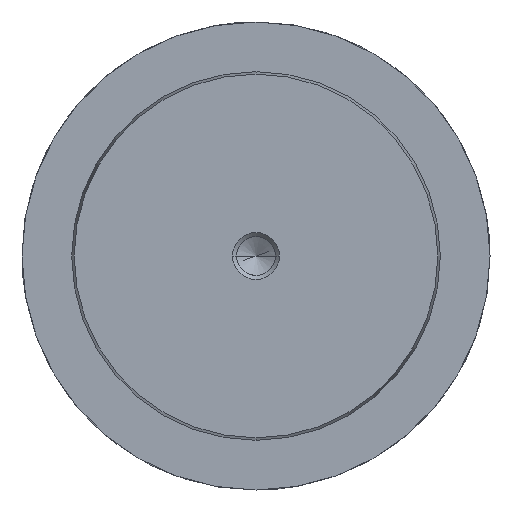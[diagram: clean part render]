
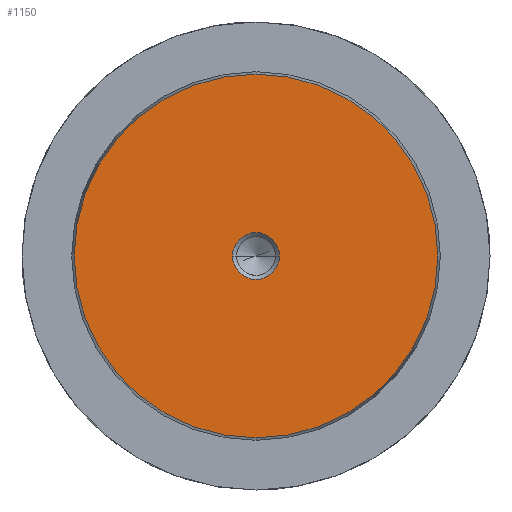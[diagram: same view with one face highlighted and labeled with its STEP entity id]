
A CAD part, left-side view. The second image highlights one B-rep face of the part: STEP entity #1150.
In plain terms, the highlighted planar face has unit normal (-1, 0, 0).
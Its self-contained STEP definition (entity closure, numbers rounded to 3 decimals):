
#1064=CARTESIAN_POINT('Vertex',(0.,0.,-31.078)) ;
#1067=CARTESIAN_POINT('Axis2P3D Location',(0.,0.,0.)) ;
#1071=CARTESIAN_POINT('Vertex',(0.,31.078,0.)) ;
#1074=CARTESIAN_POINT('Axis2P3D Location',(0.,0.,0.)) ;
#1078=CARTESIAN_POINT('Vertex',(0.,0.,31.078)) ;
#1100=CARTESIAN_POINT('Axis2P3D Location',(0.,0.,0.)) ;
#1104=CARTESIAN_POINT('Vertex',(0.,-31.078,0.)) ;
#1107=CARTESIAN_POINT('Axis2P3D Location',(0.,0.,0.)) ;
#1121=CARTESIAN_POINT('Axis2P3D Location',(0.,0.,0.)) ;
#1132=CARTESIAN_POINT('Axis2P3D Location',(0.,0.,0.)) ;
#1136=CARTESIAN_POINT('Vertex',(0.,4.,0.)) ;
#1138=CARTESIAN_POINT('Vertex',(0.,-4.,0.)) ;
#1141=CARTESIAN_POINT('Axis2P3D Location',(0.,0.,0.)) ;
#1068=DIRECTION('Axis2P3D Direction',(1.,0.,-0.)) ;
#1075=DIRECTION('Axis2P3D Direction',(1.,0.,-0.)) ;
#1101=DIRECTION('Axis2P3D Direction',(1.,0.,-0.)) ;
#1108=DIRECTION('Axis2P3D Direction',(1.,0.,-0.)) ;
#1122=DIRECTION('Axis2P3D Direction',(1.,0.,-0.)) ;
#1123=DIRECTION('Axis2P3D XDirection',(-0.,0.,-1.)) ;
#1133=DIRECTION('Axis2P3D Direction',(1.,0.,-0.)) ;
#1142=DIRECTION('Axis2P3D Direction',(1.,0.,-0.)) ;
#1069=AXIS2_PLACEMENT_3D('Circle Axis2P3D',#1067,#1068,$) ;
#1076=AXIS2_PLACEMENT_3D('Circle Axis2P3D',#1074,#1075,$) ;
#1102=AXIS2_PLACEMENT_3D('Circle Axis2P3D',#1100,#1101,$) ;
#1109=AXIS2_PLACEMENT_3D('Circle Axis2P3D',#1107,#1108,$) ;
#1124=AXIS2_PLACEMENT_3D('Plane Axis2P3D',#1121,#1122,#1123) ;
#1134=AXIS2_PLACEMENT_3D('Circle Axis2P3D',#1132,#1133,$) ;
#1143=AXIS2_PLACEMENT_3D('Circle Axis2P3D',#1141,#1142,$) ;
#1127=ORIENTED_EDGE('',*,*,#1073,.F.) ;
#1128=ORIENTED_EDGE('',*,*,#1111,.F.) ;
#1129=ORIENTED_EDGE('',*,*,#1106,.F.) ;
#1130=ORIENTED_EDGE('',*,*,#1080,.F.) ;
#1147=ORIENTED_EDGE('',*,*,#1140,.T.) ;
#1148=ORIENTED_EDGE('',*,*,#1145,.T.) ;
#1149=FACE_BOUND('',#1146,.T.) ;
#1150=ADVANCED_FACE('718-63x160',(#1131,#1149),#1125,.F.) ;
#1070=CIRCLE('generated circle',#1069,31.078) ;
#1077=CIRCLE('generated circle',#1076,31.078) ;
#1103=CIRCLE('generated circle',#1102,31.078) ;
#1110=CIRCLE('generated circle',#1109,31.078) ;
#1135=CIRCLE('generated circle',#1134,4.) ;
#1144=CIRCLE('generated circle',#1143,4.) ;
#1073=EDGE_CURVE('',#1065,#1072,#1070,.T.) ;
#1080=EDGE_CURVE('',#1072,#1079,#1077,.T.) ;
#1106=EDGE_CURVE('',#1079,#1105,#1103,.T.) ;
#1111=EDGE_CURVE('',#1105,#1065,#1110,.T.) ;
#1140=EDGE_CURVE('',#1137,#1139,#1135,.T.) ;
#1145=EDGE_CURVE('',#1139,#1137,#1144,.T.) ;
#1126=EDGE_LOOP('',(#1127,#1128,#1129,#1130)) ;
#1146=EDGE_LOOP('',(#1147,#1148)) ;
#1131=FACE_OUTER_BOUND('',#1126,.T.) ;
#1125=PLANE('Plane',#1124) ;
#1065=VERTEX_POINT('',#1064) ;
#1072=VERTEX_POINT('',#1071) ;
#1079=VERTEX_POINT('',#1078) ;
#1105=VERTEX_POINT('',#1104) ;
#1137=VERTEX_POINT('',#1136) ;
#1139=VERTEX_POINT('',#1138) ;
